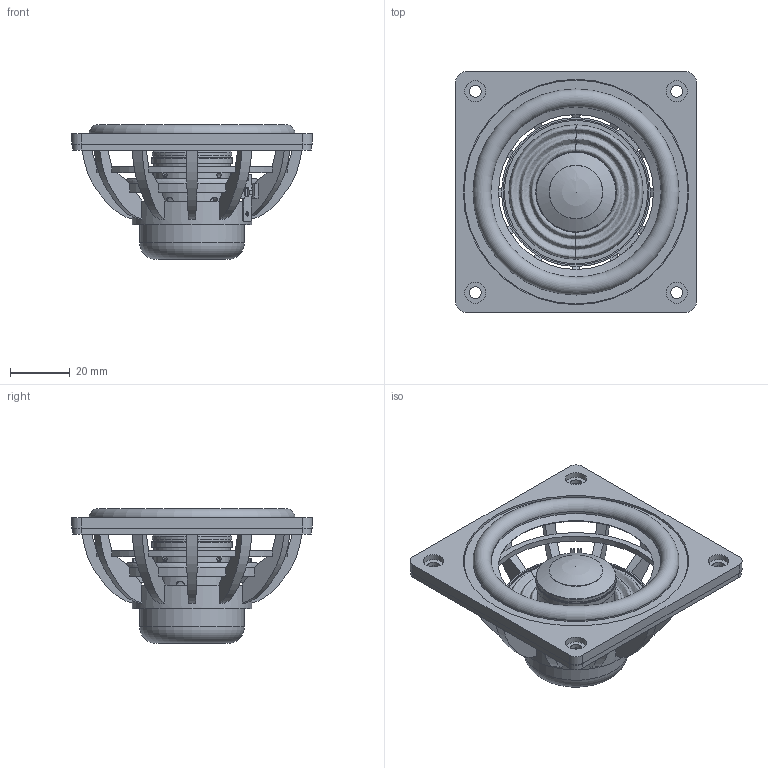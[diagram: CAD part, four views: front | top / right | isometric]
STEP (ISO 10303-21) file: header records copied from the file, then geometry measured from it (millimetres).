
FILE_DESCRIPTION(/* description */ (''),/* implementation_level */ '2;1');
FILE_NAME(/* name */ 'DMA80-8 and -4.step',/* time_stamp */ '2026-07-13T17:47:45-04:00',/* author */ (''),/* organization */ (''),/* preprocessor_version */ 'ST-DEVELOPER v20.1',/* originating_system */ 'Autodesk Translation Framework v15.8.0.0',/* authorisation */ '');
FILE_SCHEMA (('AUTOMOTIVE_DESIGN { 1 0 10303 214 3 1 1 }','MODEL_BASED_INTEGRATED_MANUFACTURING_SCHEMA','PROCESS_PLANNING_SCHEMA'));
Length unit declared in the file: millimetre
Products named in the file (3): DMA80-8_ASM; DADUANZI; EVA
Assembly tree (2 placements, depth 2):
  DMA80-8_ASM
    DADUANZI
    EVA
Bounding box: 80.5 x 80.5 x 45.1 mm (x, y, z)
Volume: 50502.8 mm3; surface area: 40911.6 mm2
Topology: 2 solids, 3 shells, 366 faces, 1097 edges, 682 vertices
Faces by surface type: plane 176, cylinder 121, cone 44, bspline 16, torus 7, sphere 2
Full cylindrical faces by diameter (mm): 1.4 x2, 2 x8, 4 x4, 4.5 x4, 7 x4, 18 x1, 25.65 x1, 26 x1, 26.76 x1, 26.8 x1, 35 x1, 40 x1, 48 x1, 48.8 x1, 57 x1, 57.7 x1, 60 x1, 68.3 x1, 68.5 x1, 69 x1, 74.3 x1, 75 x1, 75.5 x1
Entity records: 16479 total; most frequent: CARTESIAN_POINT 6235, ORIENTED_EDGE 2206, DIRECTION 2141, EDGE_CURVE 1103, AXIS2_PLACEMENT_3D 757, VERTEX_POINT 682, LINE 627, VECTOR 627
